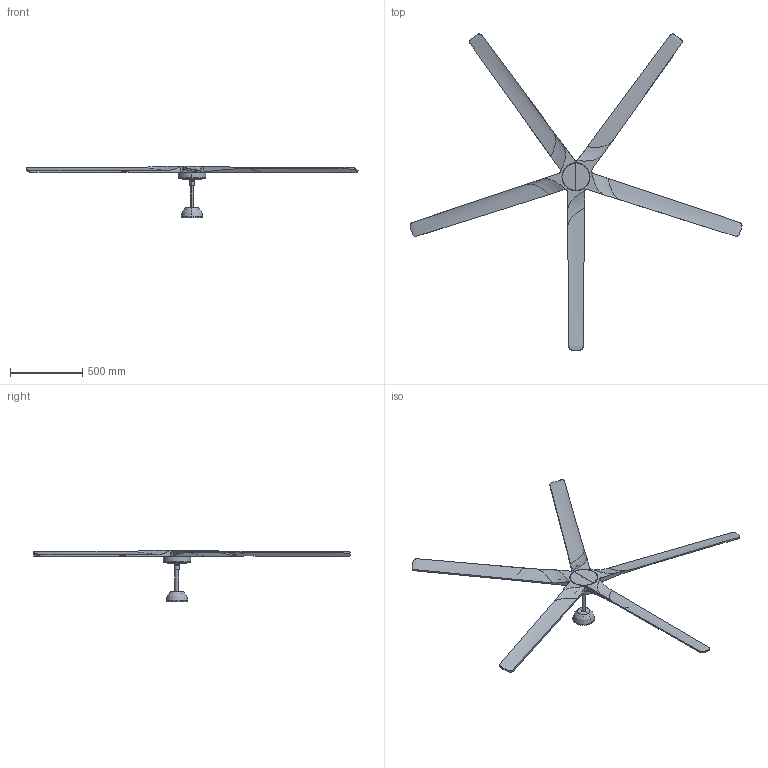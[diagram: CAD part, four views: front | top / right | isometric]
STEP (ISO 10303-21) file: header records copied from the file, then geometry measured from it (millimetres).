
FILE_DESCRIPTION(/* description */ (''),/* implementation_level */ '2;1');
FILE_NAME(/* name */ '34192.step',/* time_stamp */ '2024-09-09T16:19:14+02:00',/* author */ ('RenataManzini'),/* organization */ (''),/* preprocessor_version */ 'ST-DEVELOPER v20',/* originating_system */ 'AutoCAD Mechanical',/* authorisation */ '');
FILE_SCHEMA (('AUTOMOTIVE_DESIGN { 1 0 10303 214 3 1 1 }'));
Length unit declared in the file: millimetre
Products named in the file (2): Product; bigwood_2400 - fan-531318-_3D_
Assembly tree (1 placements, depth 2):
  Product
    bigwood_2400 - fan-531318-_3D_
Bounding box: 2299.47 x 2189.5 x 354.2 mm (x, y, z)
Volume: 9977264.6 mm3; surface area: 1808685.6 mm2
Topology: 14 solids, 14 shells, 469 faces, 1242 edges, 816 vertices
Faces by surface type: cylinder 228, plane 186, bspline 27, torus 22, cone 6
Entity records: 17930 total; most frequent: CARTESIAN_POINT 6271, ORIENTED_EDGE 2478, DIRECTION 2316, EDGE_CURVE 1239, AXIS2_PLACEMENT_3D 875, VERTEX_POINT 811, LINE 566, VECTOR 566
